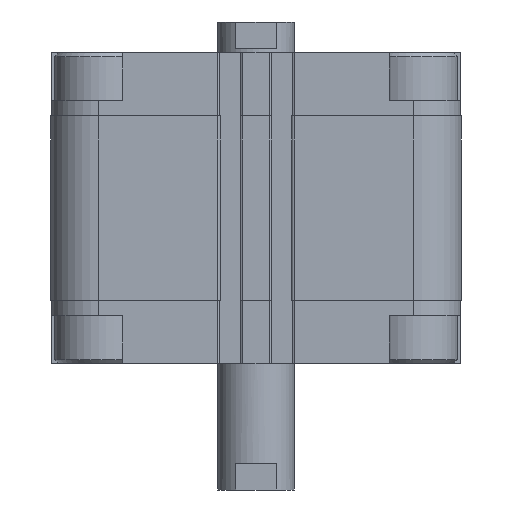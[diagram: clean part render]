
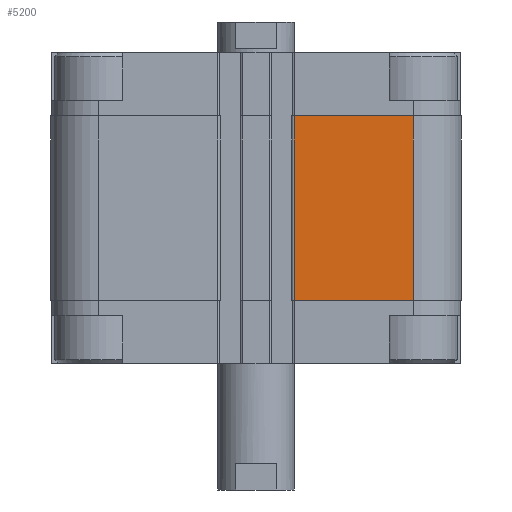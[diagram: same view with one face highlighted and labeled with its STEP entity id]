
A CAD part, front view. The second image highlights one B-rep face of the part: STEP entity #5200.
In plain terms, the highlighted planar face has unit normal (0, -1, 0).
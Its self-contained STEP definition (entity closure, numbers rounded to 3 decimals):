
#73 = VECTOR ( 'NONE', #15171, 1000. ) ;
#650 = CARTESIAN_POINT ( 'NONE',  ( 9.95, -53.5, -64.5 ) ) ;
#665 = VECTOR ( 'NONE', #5693, 1000. ) ;
#1160 = CARTESIAN_POINT ( 'NONE',  ( 9.95, -53.5, -16.5 ) ) ;
#1229 = CARTESIAN_POINT ( 'NONE',  ( 9.95, -53.5, -64.5 ) ) ;
#1419 = CARTESIAN_POINT ( 'NONE',  ( 9.95, -53.5, -64.5 ) ) ;
#1767 = EDGE_CURVE ( 'NONE', #13770, #13530, #5093, .T. ) ;
#1994 = CARTESIAN_POINT ( 'NONE',  ( 9.95, -53.5, -64.5 ) ) ;
#2394 = LINE ( 'NONE', #8947, #17841 ) ;
#4115 = DIRECTION ( 'NONE',  ( 1., 0., 0. ) ) ;
#4425 = EDGE_CURVE ( 'NONE', #8638, #6657, #18842, .T. ) ;
#5007 = PLANE ( 'NONE',  #9242 ) ;
#5093 = LINE ( 'NONE', #5203, #73 ) ;
#5200 = ADVANCED_FACE ( 'NONE', ( #11671 ), #5007, .T. ) ;
#5203 = CARTESIAN_POINT ( 'NONE',  ( 41., -53.5, -64.5 ) ) ;
#5693 = DIRECTION ( 'NONE',  ( 1., 0., 0. ) ) ;
#6657 = VERTEX_POINT ( 'NONE', #1160 ) ;
#7522 = VECTOR ( 'NONE', #17237, 1000. ) ;
#8551 = DIRECTION ( 'NONE',  ( 0., -1., 0. ) ) ;
#8638 = VERTEX_POINT ( 'NONE', #1419 ) ;
#8947 = CARTESIAN_POINT ( 'NONE',  ( 9.95, -53.5, -16.5 ) ) ;
#9242 = AXIS2_PLACEMENT_3D ( 'NONE', #1994, #8551, #9843 ) ;
#9843 = DIRECTION ( 'NONE',  ( -1., 0., 0. ) ) ;
#10119 = EDGE_CURVE ( 'NONE', #6657, #13530, #2394, .T. ) ;
#11671 = FACE_OUTER_BOUND ( 'NONE', #17601, .T. ) ;
#13530 = VERTEX_POINT ( 'NONE', #20172 ) ;
#13770 = VERTEX_POINT ( 'NONE', #16188 ) ;
#14826 = ORIENTED_EDGE ( 'NONE', *, *, #4425, .F. ) ;
#15171 = DIRECTION ( 'NONE',  ( 0., 0., 1. ) ) ;
#16188 = CARTESIAN_POINT ( 'NONE',  ( 41., -53.5, -64.5 ) ) ;
#16972 = LINE ( 'NONE', #650, #665 ) ;
#17237 = DIRECTION ( 'NONE',  ( 0., 0., 1. ) ) ;
#17601 = EDGE_LOOP ( 'NONE', ( #17625, #14826, #18388, #20514 ) ) ;
#17625 = ORIENTED_EDGE ( 'NONE', *, *, #10119, .F. ) ;
#17841 = VECTOR ( 'NONE', #4115, 1000. ) ;
#18388 = ORIENTED_EDGE ( 'NONE', *, *, #18401, .T. ) ;
#18401 = EDGE_CURVE ( 'NONE', #8638, #13770, #16972, .T. ) ;
#18842 = LINE ( 'NONE', #1229, #7522 ) ;
#20172 = CARTESIAN_POINT ( 'NONE',  ( 41., -53.5, -16.5 ) ) ;
#20514 = ORIENTED_EDGE ( 'NONE', *, *, #1767, .T. ) ;
